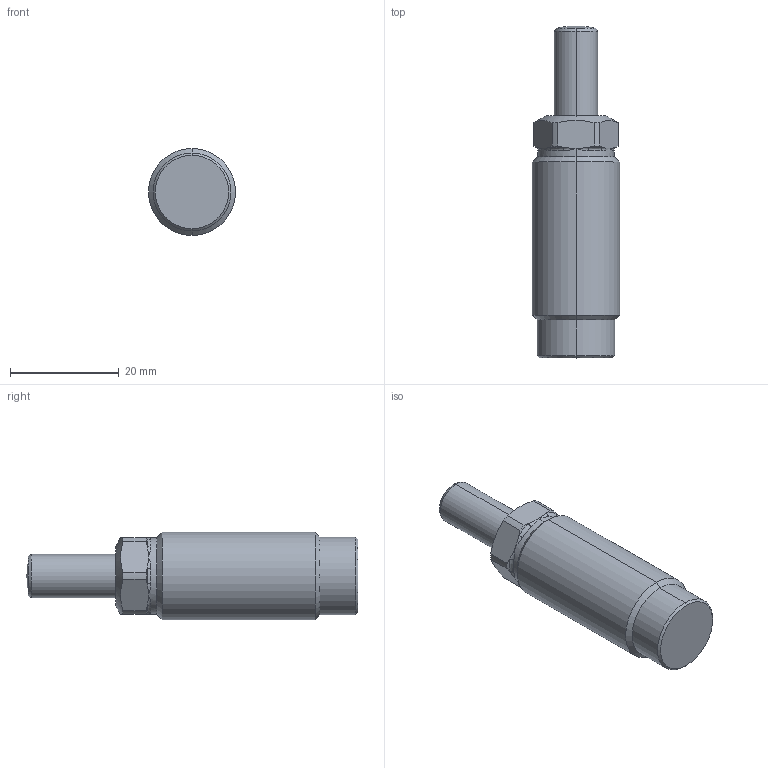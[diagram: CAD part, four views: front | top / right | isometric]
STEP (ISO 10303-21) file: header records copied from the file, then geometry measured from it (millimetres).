
FILE_DESCRIPTION((' '),'2;1');
FILE_NAME( 'CMC01-15R.x_t.stp', '2024-08-27T13:58:36', (' '), ('--- Datakit www.datakit.com---'), ' Datakit CrossCadWare V2024.1 Dec 21 2023', 'Mastercam 2025', ' ');
FILE_SCHEMA(('AUTOMOTIVE_DESIGN { 1 0 10303 214 1 1 1 1 }'));
Length unit declared in the file: millimetre
Products named in the file (1): CMC01-15R
Bounding box: 16 x 61 x 16 mm (x, y, z)
Volume: 8370.8 mm3; surface area: 3364 mm2
Topology: 2 solids, 2 shells, 62 faces, 155 edges, 84 vertices
Faces by surface type: cone 16, cylinder 16, bspline 12, plane 10, torus 6, sphere 2
Entity records: 3325 total; most frequent: CARTESIAN_POINT 1964, ORIENTED_EDGE 282, DIRECTION 264, EDGE_CURVE 141, AXIS2_PLACEMENT_3D 116, VERTEX_POINT 84, CIRCLE 65, EDGE_LOOP 63
